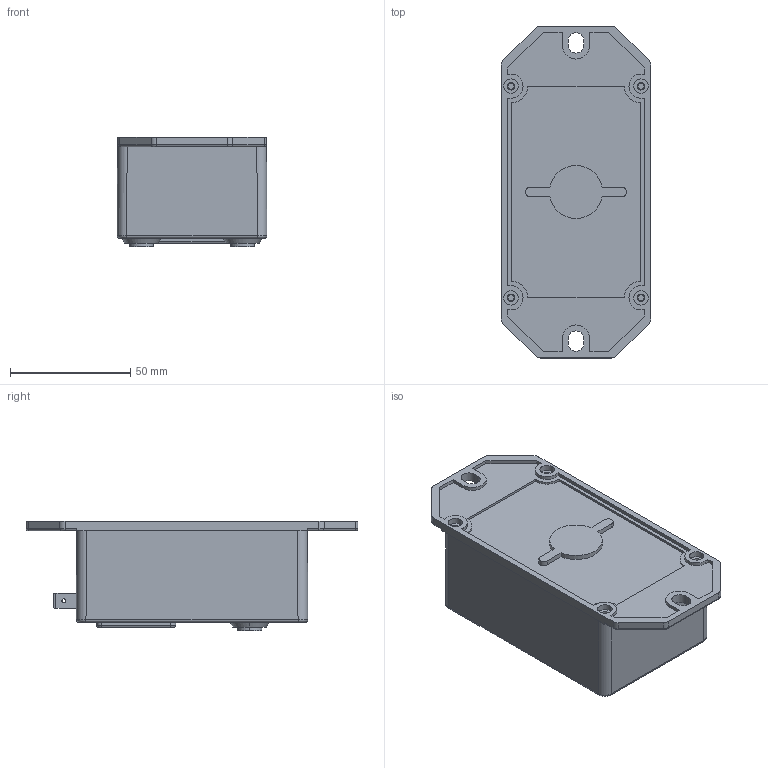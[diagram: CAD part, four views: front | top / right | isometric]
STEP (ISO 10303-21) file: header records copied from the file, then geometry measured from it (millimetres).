
FILE_DESCRIPTION(('Creo Elements/Direct Modeling STEP Export'),'2;1');
FILE_NAME('LV 100_SP47 black box.stp','2012-09-14T13:04:28',(''),(''),'Creo Elements/Direct Modeling STEP processor for AP214 (Solid Model)','Creo Elements/Direct Modeling 17.0C 05-Feb-2011 (C) Parametric Technology GmbH','');
FILE_SCHEMA(('AUTOMOTIVE_DESIGN { 1 0 10303 214 1 1 1 1 }'));
Length unit declared in the file: millimetre
Products named in the file (5): BORNE_SECONDAIRE_1.PRT; BORNE_SECONDAIRE.PRT; BOITIER.PRT; LV100_SP38_BLACKBOX.ASM; LV_100_SP38_BLACKBOX.stp
Assembly tree (4 placements, depth 3):
  LV_100_SP38_BLACKBOX.stp
    LV100_SP38_BLACKBOX.ASM
      BOITIER.PRT
      BORNE_SECONDAIRE.PRT
      BORNE_SECONDAIRE_1.PRT
Bounding box: 62.13 x 138 x 45.5 mm (x, y, z)
Volume: 243482.1 mm3; surface area: 38699.4 mm2
Topology: 3 solids, 7 shells, 378 faces, 893 edges, 569 vertices
Faces by surface type: plane 188, cylinder 150, cone 20, torus 16, bspline 4
Entity records: 13941 total; most frequent: CARTESIAN_POINT 2480, ORIENTED_EDGE 1778, DIRECTION 1758, EDGE_CURVE 889, AXIS2_PLACEMENT_3D 627, VERTEX_POINT 569, VECTOR 504, LINE 504
